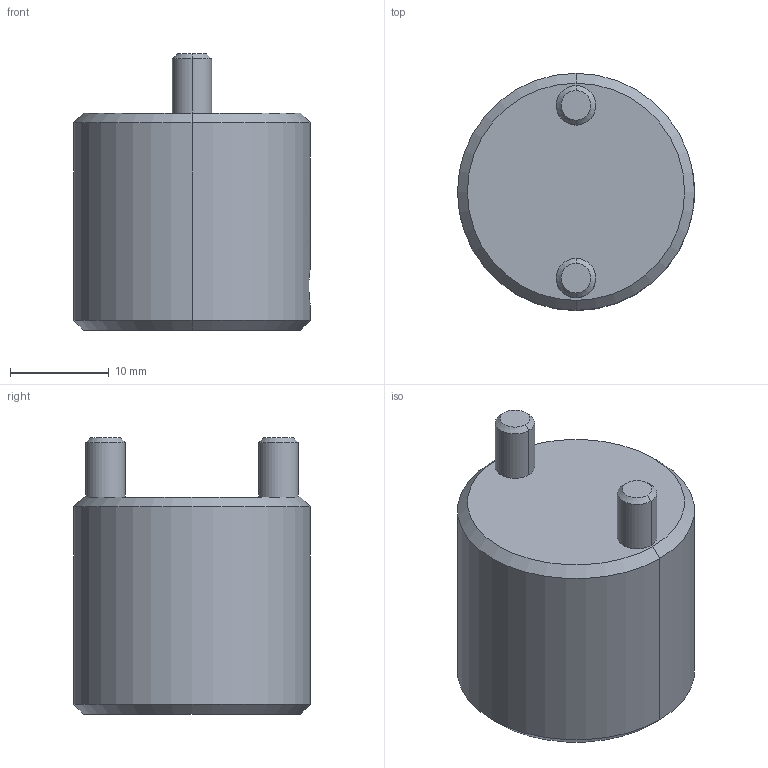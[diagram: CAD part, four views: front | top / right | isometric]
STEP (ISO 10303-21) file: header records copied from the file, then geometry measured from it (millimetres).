
FILE_DESCRIPTION((''),'2;1');
FILE_NAME('CS1512','2018-01-21T',('MANU'),(''),'PRO/ENGINEER BY PARAMETRIC TECHNOLOGY CORPORATION, 2012130','PRO/ENGINEER BY PARAMETRIC TECHNOLOGY CORPORATION, 2012130','');
FILE_SCHEMA(('CONFIG_CONTROL_DESIGN'));
Length unit declared in the file: millimetre
Products named in the file (1): CS1512
Bounding box: 24 x 24 x 28 mm (x, y, z)
Volume: 7904.7 mm3; surface area: 3351.5 mm2
Topology: 1 solids, 1 shells, 23 faces, 47 edges, 28 vertices
Faces by surface type: cylinder 10, cone 8, plane 5
Entity records: 727 total; most frequent: CARTESIAN_POINT 192, DIRECTION 109, ORIENTED_EDGE 94, EDGE_CURVE 47, AXIS2_PLACEMENT_3D 45, VERTEX_POINT 28, EDGE_LOOP 27, FACE_OUTER_BOUND 23
